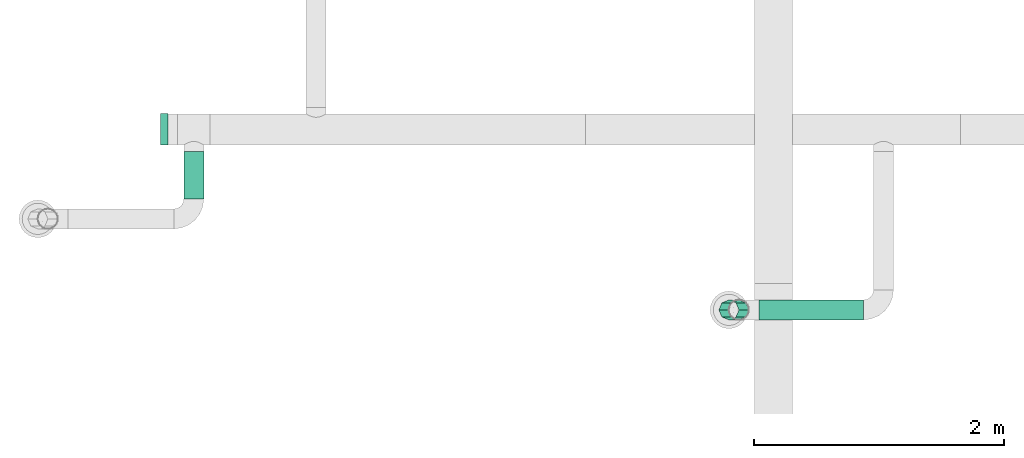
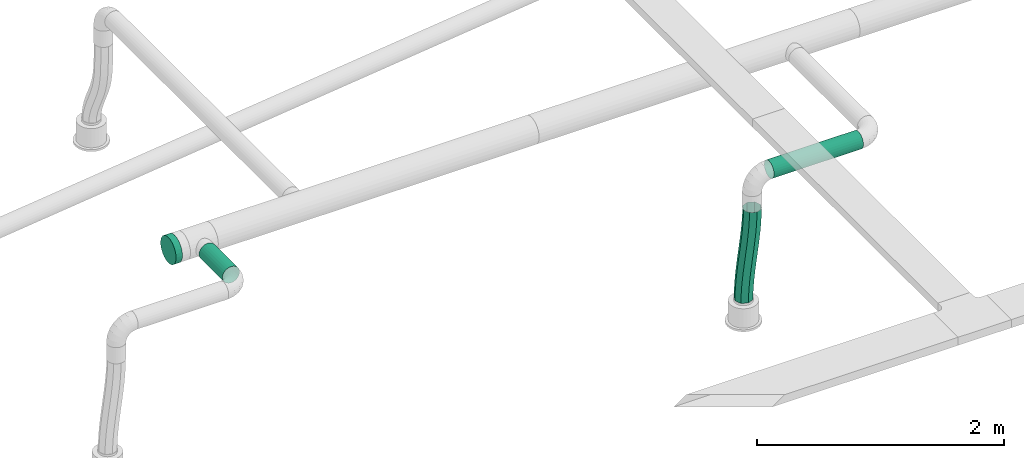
# One storey, part 239 of 374: 3 flow segments, 1 flow fitting.
"""IFC2X3 building model written with IfcOpenShell, lengths in metres."""

from ifc_helpers import new_model, si_unit, direction, origin, place, context, subcontext, project, spatial, open_shell, surface_model, source, transform, mapped, element, save


model = new_model("IFC2X3")

# Units and contexts
model_context = context("Model", 3, precision=1e-05, world=origin(), true_north=direction((-0.4480736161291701, 0.8939966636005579)))
body_context = subcontext(model_context, "Body", "Model", "MODEL_VIEW")
ifc_project = project(units=[si_unit("LENGTHUNIT", "METRE"), si_unit("AREAUNIT", "SQUARE_METRE"), si_unit("VOLUMEUNIT", "CUBIC_METRE"), si_unit("PLANEANGLEUNIT", "RADIAN"), si_unit("THERMODYNAMICTEMPERATUREUNIT", "KELVIN"), si_unit("MASSUNIT", "GRAM", prefix="KILO"), si_unit("TIMEUNIT", "SECOND")], contexts=[model_context])

# Site, building, storey
site_placement = place(None, origin())
site = spatial("IfcSite", under=ifc_project, at=site_placement, Name="Site 1", CompositionType="ELEMENT")
building_placement = place(site_placement, origin())
building = spatial("IfcBuilding", under=site, at=building_placement, Name="Undefined", CompositionType="ELEMENT")
storey_placement = place(building_placement, origin())
storey = spatial("IfcBuildingStorey", under=building, at=storey_placement, Name="Rez de chauss\x8ee", CompositionType="ELEMENT", Elevation=0.0)

# Flow segments
shared_shape_1 = source(origin(), body_context, "Body", "SurfaceModel", [
    surface_model("IfcFaceBasedSurfaceModel", [(0.09591137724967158, 0.0, 0.0), (0.057778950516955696, 0.047905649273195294, 0.0), (0.0, 0.0, 0.0), (0.0399085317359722, -0.04643643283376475, -1.080106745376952e-06), (-0.05576708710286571, -0.04966195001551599, -0.0010921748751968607), (-0.014403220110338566, -0.09480686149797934, -0.0010661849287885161), (-0.10982704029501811, -0.10061374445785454, -0.003047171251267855), (-0.06736209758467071, -0.14472448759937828, -0.0029825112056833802), (-0.16253987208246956, -0.15244489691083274, -0.005638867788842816), (-0.119306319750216, -0.1958025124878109, -0.005537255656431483), (-0.214261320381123, -0.20475373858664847, -0.008645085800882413), (-0.170574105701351, -0.24765413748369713, -0.008517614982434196), (-0.2653408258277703, -0.2571454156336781, -0.011847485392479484), (-0.22150367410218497, -0.29989256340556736, -0.011710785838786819), (-0.3161204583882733, -0.30923059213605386, -0.015031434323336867), (-0.2724332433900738, -0.35213099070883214, -0.014903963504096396), (-0.36693458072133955, -0.36062500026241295, -0.01798594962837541), (-0.32370102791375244, -0.403982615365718, -0.017884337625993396), (-0.41811018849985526, -0.4109498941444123, -0.02050375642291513), (-0.37564524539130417, -0.4550606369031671, -0.020439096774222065), (-0.4699679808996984, -0.45983334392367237, -0.02238141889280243), (-0.42860411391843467, -0.504978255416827, -0.02235542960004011), (-0.5228243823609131, -0.5069122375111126, -0.023419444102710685), (-0.48291585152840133, -0.5533486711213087, -0.023420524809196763), (-0.5770511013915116, -0.5518794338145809, -0.02342157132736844), (-0.5389186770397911, -0.5997850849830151, -0.02342157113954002), (0.03053522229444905, 0.08155715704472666, -0.04329420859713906), (-0.027979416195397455, 0.0330429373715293, -0.04329376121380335), (-0.08434932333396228, -0.017153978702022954, -0.04439714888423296), (-0.13886535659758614, -0.06853413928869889, -0.04636816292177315), (-0.19189655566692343, -0.12067724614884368, -0.04897516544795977), (-0.24380591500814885, -0.1731754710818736, -0.05199209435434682), (-0.29494752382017, -0.22563062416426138, -0.055198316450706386), (-0.3456650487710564, -0.2776523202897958, -0.05837844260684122), (-0.39629125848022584, -0.32885734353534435, -0.06132224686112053), (-0.44714850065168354, -0.37887028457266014, -0.06382474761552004), (-0.49855021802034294, -0.42732537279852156, -0.06568639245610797), (-0.5508038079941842, -0.4738693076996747, -0.06671320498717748), (-0.6042948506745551, -0.518227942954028, -0.06671577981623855), (0.03013919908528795, 0.08124192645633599, -0.10452146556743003), (-0.027639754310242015, 0.033336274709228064, -0.10452146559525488), (-0.08340684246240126, -0.01632567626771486, -0.10561364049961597), (-0.13746679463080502, -0.06727746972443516, -0.10756863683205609), (-0.19017962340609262, -0.11910861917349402, -0.11016033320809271), (-0.24190106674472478, -0.17141745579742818, -0.11316655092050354), (-0.2929805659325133, -0.22380912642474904, -0.11636895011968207), (-0.3437601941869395, -0.27589429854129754, -0.11955289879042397), (-0.3945743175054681, -0.32728870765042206, -0.12250741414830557), (-0.44574993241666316, -0.3776136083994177, -0.125025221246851), (-0.4976077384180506, -0.4264970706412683, -0.12690288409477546), (-0.5504641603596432, -0.4735759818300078, -0.12794090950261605), (-0.6046909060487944, -0.5185431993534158, -0.12794303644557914), (0.05682286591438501, 0.047144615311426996, -0.1478156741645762), (0.000820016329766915, 0.0007081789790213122, -0.14781675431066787), (-0.05349173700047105, -0.04766225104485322, -0.14888185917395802), (-0.10645061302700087, -0.09757987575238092, -0.1507981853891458), (-0.15839483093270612, -0.14865789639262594, -0.15335292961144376), (-0.2096626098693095, -0.20050951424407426, -0.1563332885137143), (-0.26059216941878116, -0.25274793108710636, -0.15952645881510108), (-0.31152173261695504, -0.30498635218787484, -0.16271963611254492), (-0.36278951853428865, -0.35683797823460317, -0.1657000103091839), (-0.41473374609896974, -0.4079160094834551, -0.16825476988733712), (-0.4676926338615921, -0.4578336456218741, -0.17017110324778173), (-0.522004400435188, -0.506204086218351, -0.17123619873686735), (-0.5780072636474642, -0.5526405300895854, -0.1712372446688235), (0.0949552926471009, -0.0007610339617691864, -0.14781567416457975), (0.04072854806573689, -0.04572825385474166, -0.1478178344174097), (-0.01212787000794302, -0.0928071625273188, -0.14885586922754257), (-0.06398567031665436, -0.1416906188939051, -0.15073352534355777), (-0.11516127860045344, -0.19201551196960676, -0.15325131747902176), (-0.16597539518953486, -0.24340991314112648, -0.1562058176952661), (-0.2167550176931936, -0.29549507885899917, -0.15938975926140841), (-0.2678345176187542, -0.34788675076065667, -0.162592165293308), (-0.3195559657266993, -0.4001955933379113, -0.165598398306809), (-0.37226880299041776, -0.45202675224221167, -0.1681901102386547), (-0.42632876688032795, -0.5029785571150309, -0.17014511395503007), (-0.4820958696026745, -0.5526405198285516, -0.1712372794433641), (-0.5398748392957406, -0.6005461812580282, -0.17123724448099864), (0.12219902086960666, -0.034412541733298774, -0.10452146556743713), (0.06870796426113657, -0.07877119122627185, -0.10452407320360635), (0.016454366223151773, -0.12531513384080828, -0.10555089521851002), (-0.03494735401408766, -0.1737702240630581, -0.10741253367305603), (-0.08580459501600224, -0.22378316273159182, -0.10991501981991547), (-0.13643080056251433, -0.27498818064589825, -0.11285880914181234), (-0.18714831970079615, -0.3270098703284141, -0.11603892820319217), (-0.23828992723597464, -0.3794650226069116, -0.11924515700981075), (-0.29019928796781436, -0.43196325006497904, -0.12226210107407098), (-0.3432304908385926, -0.48410636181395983, -0.12486911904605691), (-0.39774652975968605, -0.5354865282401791, -0.12684014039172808), (-0.45411644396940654, -0.585683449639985, -0.12794351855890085), (-0.5126310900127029, -0.6341976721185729, -0.12794303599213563), (0.12259504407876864, -0.03409731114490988, -0.04329420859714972), (0.06836830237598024, -0.07906452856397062, -0.04329636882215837), (0.01551188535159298, -0.12614343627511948, -0.04433440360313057), (-0.03634591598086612, -0.17502689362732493, -0.04621205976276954), (-0.08752152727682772, -0.22535178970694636, -0.04872985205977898), (-0.13833564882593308, -0.2767461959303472, -0.05168435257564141), (-0.1891152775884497, -0.3288313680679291, -0.05486829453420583), (-0.24019478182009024, -0.3812230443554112, -0.058070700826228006), (-0.2919162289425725, -0.4335318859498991, -0.06107693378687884), (-0.34462905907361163, -0.48536303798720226, -0.06366864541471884), (-0.39868900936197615, -0.5363148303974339, -0.06562364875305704), (-0.45445609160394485, -0.5859767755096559, -0.06671581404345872), (-0.5122350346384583, -0.6338824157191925, -0.06671577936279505)], [open_shell([[[0, 1, 2]], [[2, 3, 0]], [[3, 2, 4]], [[4, 5, 3]], [[5, 4, 6]], [[6, 7, 5]], [[7, 6, 8]], [[8, 9, 7]], [[9, 8, 10]], [[10, 11, 9]], [[11, 10, 12]], [[12, 13, 11]], [[13, 12, 14]], [[14, 15, 13]], [[15, 14, 16]], [[16, 17, 15]], [[17, 16, 18]], [[18, 19, 17]], [[19, 18, 20]], [[20, 21, 19]], [[21, 20, 22]], [[22, 23, 21]], [[23, 22, 24]], [[24, 25, 23]], [[1, 26, 27]], [[27, 2, 1]], [[2, 27, 28]], [[28, 4, 2]], [[4, 28, 29]], [[29, 6, 4]], [[6, 29, 30]], [[30, 8, 6]], [[8, 30, 31]], [[31, 10, 8]], [[10, 31, 32]], [[32, 12, 10]], [[12, 32, 33]], [[33, 14, 12]], [[14, 33, 34]], [[34, 16, 14]], [[16, 34, 35]], [[35, 18, 16]], [[18, 35, 36]], [[36, 20, 18]], [[20, 36, 37]], [[37, 22, 20]], [[22, 37, 38]], [[38, 24, 22]], [[26, 39, 40]], [[40, 27, 26]], [[27, 40, 41]], [[41, 28, 27]], [[28, 41, 42]], [[42, 29, 28]], [[29, 42, 43]], [[43, 30, 29]], [[30, 43, 44]], [[44, 31, 30]], [[31, 44, 45]], [[45, 32, 31]], [[32, 45, 46]], [[46, 33, 32]], [[33, 46, 47]], [[47, 34, 33]], [[34, 47, 48]], [[48, 35, 34]], [[35, 48, 49]], [[49, 36, 35]], [[36, 49, 50]], [[50, 37, 36]], [[37, 50, 51]], [[51, 38, 37]], [[39, 52, 53]], [[53, 40, 39]], [[40, 53, 54]], [[54, 41, 40]], [[41, 54, 55]], [[55, 42, 41]], [[42, 55, 56]], [[56, 43, 42]], [[43, 56, 57]], [[57, 44, 43]], [[44, 57, 58]], [[58, 45, 44]], [[45, 58, 59]], [[59, 46, 45]], [[46, 59, 60]], [[60, 47, 46]], [[47, 60, 61]], [[61, 48, 47]], [[48, 61, 62]], [[62, 49, 48]], [[49, 62, 63]], [[63, 50, 49]], [[50, 63, 64]], [[64, 51, 50]], [[52, 65, 66]], [[66, 53, 52]], [[53, 66, 67]], [[67, 54, 53]], [[54, 67, 68]], [[68, 55, 54]], [[55, 68, 69]], [[69, 56, 55]], [[56, 69, 70]], [[70, 57, 56]], [[57, 70, 71]], [[71, 58, 57]], [[58, 71, 72]], [[72, 59, 58]], [[59, 72, 73]], [[73, 60, 59]], [[60, 73, 74]], [[74, 61, 60]], [[61, 74, 75]], [[75, 62, 61]], [[62, 75, 76]], [[76, 63, 62]], [[63, 76, 77]], [[77, 64, 63]], [[65, 78, 79]], [[79, 66, 65]], [[66, 79, 80]], [[80, 67, 66]], [[67, 80, 81]], [[81, 68, 67]], [[68, 81, 82]], [[82, 69, 68]], [[69, 82, 83]], [[83, 70, 69]], [[70, 83, 84]], [[84, 71, 70]], [[71, 84, 85]], [[85, 72, 71]], [[72, 85, 86]], [[86, 73, 72]], [[73, 86, 87]], [[87, 74, 73]], [[74, 87, 88]], [[88, 75, 74]], [[75, 88, 89]], [[89, 76, 75]], [[76, 89, 90]], [[90, 77, 76]], [[78, 91, 92]], [[92, 79, 78]], [[79, 92, 93]], [[93, 80, 79]], [[80, 93, 94]], [[94, 81, 80]], [[81, 94, 95]], [[95, 82, 81]], [[82, 95, 96]], [[96, 83, 82]], [[83, 96, 97]], [[97, 84, 83]], [[84, 97, 98]], [[98, 85, 84]], [[85, 98, 99]], [[99, 86, 85]], [[86, 99, 100]], [[100, 87, 86]], [[87, 100, 101]], [[101, 88, 87]], [[88, 101, 102]], [[102, 89, 88]], [[89, 102, 103]], [[103, 90, 89]], [[91, 0, 3]], [[3, 92, 91]], [[92, 3, 5]], [[5, 93, 92]], [[93, 5, 7]], [[7, 94, 93]], [[94, 7, 9]], [[9, 95, 94]], [[95, 9, 11]], [[11, 96, 95]], [[96, 11, 13]], [[13, 97, 96]], [[97, 13, 15]], [[15, 98, 97]], [[98, 15, 17]], [[17, 99, 98]], [[99, 17, 19]], [[19, 100, 99]], [[100, 19, 21]], [[21, 101, 100]], [[101, 21, 23]], [[23, 102, 101]], [[102, 23, 25]], [[25, 103, 102]]])]),
])
flow_segment_1_placement = place(storey_placement, origin())
element("IfcFlowSegment", 1, at=flow_segment_1_placement, inside=storey, Name="Tube flexible", ObjectType="Tube flexible", context=body_context, shape_type="MappedRepresentation", body=[
    mapped(shared_shape_1, transform((9.189580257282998, 21.358154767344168, 3.4049618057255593), x_axis=(-0.5728987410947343, 0.24430319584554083, 0.7823701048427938), y_axis=(0.7248106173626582, -0.2946538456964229, 0.6227589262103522), z_axis=(0.38267035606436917, 0.9238479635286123, -0.008266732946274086))),
])
shared_shape_2 = source(origin(), body_context, "Body", "SurfaceModel", [
    surface_model("IfcFaceBasedSurfaceModel", [(0.0, 0.020884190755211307, 0.0), (0.0, 0.0, 0.0), (0.380692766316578, 0.0, 0.0), (0.380692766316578, 0.020884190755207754, 4.4408921e-16), (0.0, -0.020172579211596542, -0.005405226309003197), (0.380692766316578, -0.020172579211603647, -0.005405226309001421), (0.0, -0.03825881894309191, -0.015847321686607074), (0.380692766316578, -0.038258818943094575, -0.015847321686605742), (0.0, -0.05302617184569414, -0.0306146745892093), (0.380692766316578, -0.05302617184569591, -0.030614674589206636), (0.0, -0.06346826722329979, -0.04870091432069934), (0.380692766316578, -0.06346826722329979, -0.048700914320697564), (0.0, -0.06887349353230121, -0.06887349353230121), (0.380692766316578, -0.06887349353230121, -0.06887349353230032), (0.0, -0.06887349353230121, -0.08975768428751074), (0.380692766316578, -0.06887349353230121, -0.08975768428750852), (0.0, -0.06346826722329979, -0.10993026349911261), (0.380692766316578, -0.06346826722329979, -0.10993026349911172), (0.0, -0.05302617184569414, -0.12801650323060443), (0.380692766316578, -0.053026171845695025, -0.12801650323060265), (0.0, -0.038258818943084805, -0.14278385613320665), (0.380692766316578, -0.038258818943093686, -0.1427838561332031), (0.0, -0.020172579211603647, -0.15322595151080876), (0.380692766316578, -0.02017257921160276, -0.15322595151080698), (0.0, 7.105427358e-15, -0.15863117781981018), (0.380692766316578, 0.0, -0.1586311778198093), (0.0, 0.020884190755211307, -0.15863117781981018), (0.380692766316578, 0.020884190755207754, -0.15863117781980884), (0.0, 0.04105676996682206, -0.15322595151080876), (0.380692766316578, 0.0410567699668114, -0.15322595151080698), (0.0, 0.05914300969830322, -0.1427838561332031), (0.380692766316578, 0.05914300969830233, -0.1427838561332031), (0.0, 0.07391036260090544, -0.12801650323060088), (0.380692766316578, 0.07391036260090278, -0.12801650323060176), (0.0, 0.0843524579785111, -0.10993026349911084), (0.380692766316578, 0.08435245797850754, -0.10993026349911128), (0.0, 0.08975768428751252, -0.08975768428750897), (0.380692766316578, 0.08975768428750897, -0.08975768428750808), (0.0, 0.08975768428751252, -0.06887349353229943), (0.380692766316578, 0.08975768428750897, -0.06887349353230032), (0.0, 0.0843524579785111, -0.048700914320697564), (0.380692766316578, 0.08435245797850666, -0.048700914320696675), (0.0, 0.07391036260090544, -0.030614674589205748), (0.380692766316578, 0.07391036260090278, -0.030614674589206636), (0.0, 0.05914300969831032, -0.015847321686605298), (0.380692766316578, 0.05914300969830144, -0.015847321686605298), (0.0, 0.04105676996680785, -0.005405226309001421), (0.380692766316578, 0.041056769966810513, -0.005405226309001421)], [open_shell([[[0, 1, 2, 3]], [[1, 4, 5, 2]], [[4, 6, 7, 5]], [[6, 8, 9, 7]], [[8, 10, 11, 9]], [[10, 12, 13, 11]], [[12, 14, 15, 13]], [[14, 16, 17, 15]], [[16, 18, 19, 17]], [[18, 20, 21, 19]], [[20, 22, 23, 21]], [[22, 24, 25, 23]], [[24, 26, 27, 25]], [[26, 28, 29, 27]], [[28, 30, 31, 29]], [[30, 32, 33, 31]], [[32, 34, 35, 33]], [[34, 36, 37, 35]], [[36, 38, 39, 37]], [[38, 40, 41, 39]], [[40, 42, 43, 41]], [[42, 44, 45, 43]], [[44, 46, 47, 45]], [[46, 0, 3, 47]]])]),
])
flow_segment_2_placement = place(storey_placement, origin())
element("IfcFlowSegment", 2, at=flow_segment_2_placement, inside=storey, Name="Tube", ObjectType="Tube", context=body_context, shape_type="MappedRepresentation", body=[
    mapped(shared_shape_2, transform((4.755295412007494, 22.569929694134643, 3.877274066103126), x_axis=(0.0, -1.0, 0.0), y_axis=(0.9914448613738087, 0.0, 0.13052619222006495), z_axis=(-0.13052619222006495, 0.0, 0.9914448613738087))),
])

# Flow fitting
shared_shape_3 = source(origin(), body_context, "Body", "SurfaceModel", [
    surface_model("IfcFaceBasedSurfaceModel", [(0.0, 0.032762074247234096, 8.8817842e-16), (0.0, 0.0, 0.0), (0.06000000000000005, 8.8817842e-16, 0.0), (0.05999999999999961, 0.032762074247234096, 8.8817842e-16), (0.0, -0.03164573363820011, -0.008479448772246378), (0.05999999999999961, -0.03164573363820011, -0.008479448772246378), (0.0, -0.0600185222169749, -0.024860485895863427), (0.05999999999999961, -0.0600185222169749, -0.024860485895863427), (0.0, -0.08318480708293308, -0.04802677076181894), (0.05999999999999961, -0.08318480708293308, -0.04802677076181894), (0.0, -0.0995658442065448, -0.0763995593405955), (0.05999999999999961, -0.0995658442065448, -0.0763995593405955), (0.0, -0.10804529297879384, -0.10804529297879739), (0.05999999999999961, -0.10804529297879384, -0.10804529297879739), (0.0, -0.10804529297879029, -0.1408073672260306), (0.05999999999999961, -0.10804529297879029, -0.1408073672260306), (0.0, -0.09956584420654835, -0.1724531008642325), (0.05999999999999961, -0.09956584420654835, -0.1724531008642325), (0.0, -0.08318480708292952, -0.20082588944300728), (0.05999999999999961, -0.08318480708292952, -0.20082588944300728), (0.0, -0.0600185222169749, -0.22399217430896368), (0.05999999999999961, -0.0600185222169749, -0.22399217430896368), (0.0, -0.03164573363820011, -0.24037321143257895), (0.05999999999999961, -0.03164573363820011, -0.24037321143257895), (0.0, 3.552713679e-15, -0.24885266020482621), (0.05999999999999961, 3.552713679e-15, -0.24885266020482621), (0.0, 0.03276207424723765, -0.24885266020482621), (0.05999999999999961, 0.03276207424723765, -0.24885266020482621), (0.0, 0.06440780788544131, -0.24037321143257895), (0.05999999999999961, 0.06440780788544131, -0.24037321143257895), (0.0, 0.0927805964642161, -0.2239921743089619), (0.05999999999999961, 0.0927805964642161, -0.2239921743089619), (0.0, 0.11594688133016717, -0.2008258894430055), (0.05999999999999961, 0.11594688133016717, -0.2008258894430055), (0.0, 0.132327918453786, -0.17245310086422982), (0.05999999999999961, 0.132327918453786, -0.17245310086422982), (0.0, 0.1408073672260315, -0.14080736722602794), (0.05999999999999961, 0.1408073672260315, -0.14080736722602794), (0.0, 0.1408073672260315, -0.10804529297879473), (0.05999999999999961, 0.1408073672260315, -0.10804529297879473), (0.0, 0.13232791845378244, -0.07639955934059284), (0.05999999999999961, 0.13232791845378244, -0.07639955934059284), (0.0, 0.11594688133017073, -0.04802677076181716), (0.05999999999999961, 0.11594688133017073, -0.04802677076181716), (0.0, 0.0927805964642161, -0.02486048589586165), (0.05999999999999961, 0.0927805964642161, -0.02486048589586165), (0.0, 0.06440780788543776, -0.008479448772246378), (0.05999999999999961, 0.06440780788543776, -0.008479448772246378), (0.05999999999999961, 0.016381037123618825, -0.12442633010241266)], [open_shell([[[0, 1, 2, 3]], [[1, 4, 5, 2]], [[4, 6, 7, 5]], [[6, 8, 9, 7]], [[8, 10, 11, 9]], [[10, 12, 13, 11]], [[12, 14, 15, 13]], [[14, 16, 17, 15]], [[16, 18, 19, 17]], [[18, 20, 21, 19]], [[20, 22, 23, 21]], [[22, 24, 25, 23]], [[24, 26, 27, 25]], [[26, 28, 29, 27]], [[28, 30, 31, 29]], [[30, 32, 33, 31]], [[32, 34, 35, 33]], [[34, 36, 37, 35]], [[36, 38, 39, 37]], [[38, 40, 41, 39]], [[40, 42, 43, 41]], [[42, 44, 45, 43]], [[44, 46, 47, 45]], [[46, 0, 3, 47]], [[48, 47, 3]], [[48, 45, 47]], [[48, 43, 45]], [[48, 41, 43]], [[48, 39, 41]], [[48, 37, 39]], [[48, 35, 37]], [[48, 33, 35]], [[48, 31, 33]], [[48, 29, 31]], [[48, 27, 29]], [[48, 25, 27]], [[48, 23, 25]], [[48, 21, 23]], [[48, 19, 21]], [[48, 17, 19]], [[48, 15, 17]], [[48, 13, 15]], [[48, 11, 13]], [[48, 9, 11]], [[48, 7, 9]], [[48, 5, 7]], [[48, 2, 5]], [[48, 3, 2]]])]),
])
flow_fitting_placement = place(storey_placement, origin())
element("IfcFlowFitting", 3, at=flow_fitting_placement, inside=storey, Name="Couvercle de nettoyage", ObjectType="Couvercle de nettoyage", context=body_context, shape_type="MappedRepresentation", body=[
    mapped(shared_shape_3, transform((4.5704009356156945, 22.777411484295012, 3.9212236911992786), x_axis=(-1.0, 0.0, 0.0), y_axis=(7.266545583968e-12, -0.9914448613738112, 0.13052619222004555), z_axis=(0.0, 0.13052619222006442, 0.9914448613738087))),
])

# Flow segment
shared_shape_4 = source(origin(), body_context, "Body", "SurfaceModel", [
    surface_model("IfcFaceBasedSurfaceModel", [(0.0, 0.020884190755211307, 0.0), (0.0, 0.0, 0.0), (0.835368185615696, 3.552713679e-15, 0.0), (0.835368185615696, 0.020884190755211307, 0.0), (0.0, -0.020172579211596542, -0.005405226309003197), (0.835368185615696, -0.020172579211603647, -0.005405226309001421), (0.0, -0.03825881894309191, -0.015847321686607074), (0.835368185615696, -0.03825881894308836, -0.015847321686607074), (0.0, -0.05302617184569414, -0.0306146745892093), (0.835368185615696, -0.053026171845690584, -0.030614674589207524), (0.0, -0.06346826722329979, -0.04870091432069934), (0.835368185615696, -0.06346826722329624, -0.04870091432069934), (0.0, -0.06887349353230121, -0.06887349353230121), (0.835368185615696, -0.06887349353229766, -0.06887349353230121), (0.0, -0.06887349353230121, -0.08975768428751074), (0.835368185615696, -0.06887349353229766, -0.08975768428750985), (0.0, -0.06346826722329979, -0.10993026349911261), (0.835368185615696, -0.06346826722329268, -0.10993026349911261), (0.0, -0.05302617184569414, -0.12801650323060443), (0.835368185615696, -0.05302617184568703, -0.12801650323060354), (0.0, -0.038258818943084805, -0.14278385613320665), (0.835368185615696, -0.03825881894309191, -0.1427838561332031), (0.0, -0.020172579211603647, -0.15322595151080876), (0.835368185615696, -0.020172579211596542, -0.15322595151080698), (0.0, 7.105427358e-15, -0.15863117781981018), (0.835368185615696, 7.105427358e-15, -0.1586311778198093), (0.0, 0.020884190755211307, -0.15863117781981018), (0.835368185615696, 0.02088419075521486, -0.1586311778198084), (0.0, 0.04105676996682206, -0.15322595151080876), (0.835368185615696, 0.041056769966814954, -0.1532259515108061), (0.0, 0.05914300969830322, -0.1427838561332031), (0.835368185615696, 0.05914300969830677, -0.1427838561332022), (0.0, 0.07391036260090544, -0.12801650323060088), (0.835368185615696, 0.073910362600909, -0.12801650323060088), (0.0, 0.0843524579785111, -0.10993026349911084), (0.835368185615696, 0.08435245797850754, -0.10993026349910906), (0.0, 0.08975768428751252, -0.08975768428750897), (0.835368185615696, 0.08975768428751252, -0.0897576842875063), (0.0, 0.08975768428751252, -0.06887349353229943), (0.835368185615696, 0.08975768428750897, -0.06887349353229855), (0.0, 0.0843524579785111, -0.048700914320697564), (0.835368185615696, 0.0843524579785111, -0.04870091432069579), (0.0, 0.07391036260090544, -0.030614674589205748), (0.835368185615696, 0.07391036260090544, -0.030614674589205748), (0.0, 0.05914300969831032, -0.015847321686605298), (0.835368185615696, 0.05914300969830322, -0.01584732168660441), (0.0, 0.04105676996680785, -0.005405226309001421), (0.835368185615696, 0.041056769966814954, -0.005405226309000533)], [open_shell([[[0, 1, 2, 3]], [[1, 4, 5, 2]], [[4, 6, 7, 5]], [[6, 8, 9, 7]], [[8, 10, 11, 9]], [[10, 12, 13, 11]], [[12, 14, 15, 13]], [[14, 16, 17, 15]], [[16, 18, 19, 17]], [[18, 20, 21, 19]], [[20, 22, 23, 21]], [[22, 24, 25, 23]], [[24, 26, 27, 25]], [[26, 28, 29, 27]], [[28, 30, 31, 29]], [[30, 32, 33, 31]], [[32, 34, 35, 33]], [[34, 36, 37, 35]], [[36, 38, 39, 37]], [[38, 40, 41, 39]], [[40, 42, 43, 41]], [[42, 44, 45, 43]], [[44, 46, 47, 45]], [[46, 0, 3, 47]]])]),
])
flow_segment_3_placement = place(storey_placement, origin())
element("IfcFlowSegment", 4, at=flow_segment_3_placement, inside=storey, Name="Tube", ObjectType="Tube", context=body_context, shape_type="MappedRepresentation", body=[
    mapped(shared_shape_4, transform((10.130000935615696, 21.322327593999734, 3.877274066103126), x_axis=(-1.0, 0.0, 0.0), y_axis=(7.266545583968e-12, -0.9914448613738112, 0.13052619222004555), z_axis=(0.0, 0.13052619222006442, 0.9914448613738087))),
])

save(model, "model.ifc")
